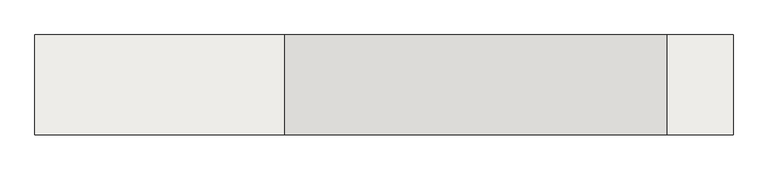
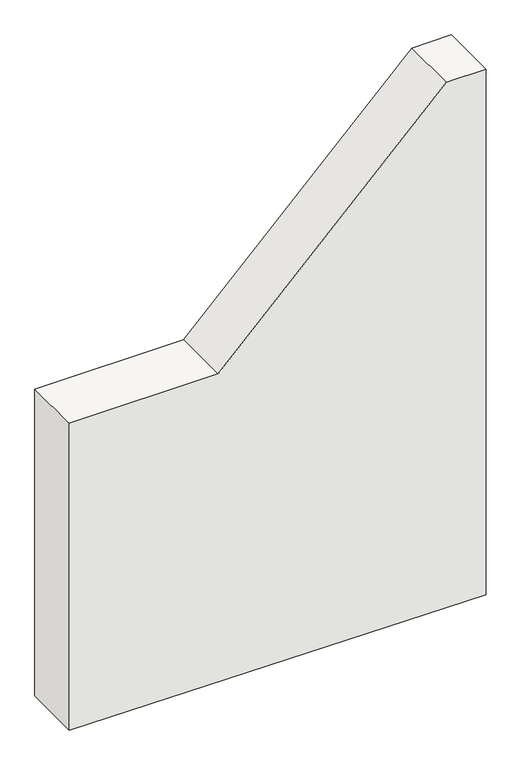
"""IFC4 building model written with IfcOpenShell, lengths in millimetres: slab geometry, Mur Amont : Mur Amont."""

import ifcopenshell
import ifcopenshell.guid

model = None  # the IFC model being written
_history = None  # IfcOwnerHistory: only IFC2X3 demands one
_inside = {}  # id of a spatial element -> (the spatial element, [elements in it])
_under = {}  # id of a project, library or spatial element -> (it, [spatial elements below it])
_declared = {}  # id of a project -> (the project, [libraries it declares])
_typed = {}  # id of a type object -> (the type object, [elements of that type])
_made_of = {}  # id of a material, layer set ... -> (it, [elements and type objects made of it])


def new_model(schema):
    """Start an empty IFC model of exactly this schema.

    Asked for "IFC4X3", IfcOpenShell would pick the latest addendum, in which some entities
    have other attributes; the version numbers below select the first issue.
    IFC2X3 requires an IfcOwnerHistory on every rooted entity: one is made here for all.
    """
    global model, _history
    if schema == "IFC4X3":
        model = ifcopenshell.file(schema_version=(4, 3, 0, 0))
    else:
        model = ifcopenshell.file(schema=schema)
    _inside.clear()
    _under.clear()
    _declared.clear()
    _typed.clear()
    _made_of.clear()
    _history = None
    if model.schema == "IFC2X3":
        org = make("IfcOrganization", Name="unknown")
        user = make(
            "IfcPersonAndOrganization",
            ThePerson=make("IfcPerson", FamilyName="unknown"),
            TheOrganization=org,
        )
        app = make(
            "IfcApplication",
            ApplicationDeveloper=org,
            Version="unknown",
            ApplicationFullName="unknown",
            ApplicationIdentifier="unknown",
        )
        _history = make(
            "IfcOwnerHistory",
            OwningUser=user,
            OwningApplication=app,
            ChangeAction="ADDED",
            CreationDate=0,
        )
    return model


def make(cls, **values):
    """One entity of the class cls with the attributes given. An attribute that is None is left unset."""
    return model.create_entity(
        cls, **{name: value for name, value in values.items() if value is not None}
    )


def rooted(cls, **values):
    """An entity with a GlobalId (a new one), such as an element, a storey or a relation."""
    return make(cls, GlobalId=ifcopenshell.guid.new(), OwnerHistory=_history, **values)


def si_unit(unit_type, name, prefix=None):
    """IfcSIUnit, for example si_unit("LENGTHUNIT", "METRE", prefix="MILLI")."""
    return make("IfcSIUnit", UnitType=unit_type, Prefix=prefix, Name=name)


def assignment(units):
    """IfcUnitAssignment: the units of a project."""
    return None if units is None else make("IfcUnitAssignment", Units=units)


def point(xyz):
    """IfcCartesianPoint."""
    return None if xyz is None else make("IfcCartesianPoint", Coordinates=xyz)


def direction(xyz):
    """IfcDirection."""
    return None if xyz is None else make("IfcDirection", DirectionRatios=xyz)


def frame(location, z_axis=None, x_axis=None):
    """IfcAxis2Placement3D, a coordinate frame: its origin and axes. An axis left out is left unset."""
    return make(
        "IfcAxis2Placement3D",
        Location=point(location),
        Axis=direction(z_axis),
        RefDirection=direction(x_axis),
    )


def origin():
    """The frame at (0, 0, 0) with its axes left unset."""
    return frame((0.0, 0.0, 0.0))


def place(relative_to, where):
    """IfcLocalPlacement: puts the frame where relative to a parent placement (None: the world)."""
    return make(
        "IfcLocalPlacement", PlacementRelTo=relative_to, RelativePlacement=where
    )


def context(
    kind, dimensions, precision=None, world=None, true_north=None, identifier=None
):
    """IfcGeometricRepresentationContext, for example the 3D "Model" context."""
    return make(
        "IfcGeometricRepresentationContext",
        ContextIdentifier=identifier,
        ContextType=kind,
        CoordinateSpaceDimension=dimensions,
        Precision=precision,
        WorldCoordinateSystem=world,
        TrueNorth=true_north,
    )


def project(units=None, contexts=None):
    """IfcProject with its units and contexts."""
    return rooted(
        "IfcProject",
        Name="project",
        RepresentationContexts=contexts,
        UnitsInContext=assignment(units),
    )


def spatial(cls, under=None, at=None, **own):
    """A site, building, storey or space (cls), placed at a placement, below another one or the project."""
    s = rooted(cls, ObjectPlacement=at, **own)
    if under is not None:
        _under.setdefault(under.id(), (under, []))[1].append(s)
    return s


def polyline(points):
    """IfcPolyline through the points."""
    return make("IfcPolyline", Points=[point(p) for p in points])


def outline(outer, holes=None, kind="AREA"):
    """IfcArbitraryClosedProfileDef: a profile drawn as a closed curve; with holes, ...WithVoids."""
    if holes is None:
        return make("IfcArbitraryClosedProfileDef", ProfileType=kind, OuterCurve=outer)
    return make(
        "IfcArbitraryProfileDefWithVoids",
        ProfileType=kind,
        OuterCurve=outer,
        InnerCurves=holes,
    )


def extrude(swept, where, along, depth):
    """IfcExtrudedAreaSolid: the profile swept, set in the frame where, extruded along a direction by depth."""
    return make(
        "IfcExtrudedAreaSolid",
        SweptArea=swept,
        Position=where,
        ExtrudedDirection=direction(along),
        Depth=depth,
    )


def shape(context_of_items, identifier, shape_type, items):
    """IfcShapeRepresentation: the items that make up one representation, for example the "Body"."""
    return make(
        "IfcShapeRepresentation",
        ContextOfItems=context_of_items,
        RepresentationIdentifier=identifier,
        RepresentationType=shape_type,
        Items=items,
    )


def source(mapping_origin, context_of_items, identifier, shape_type, items):
    """IfcRepresentationMap: a shape defined once, which mapped items show again and again."""
    return make(
        "IfcRepresentationMap",
        MappingOrigin=mapping_origin,
        MappedRepresentation=shape(context_of_items, identifier, shape_type, items),
    )


def transform(
    local_origin,
    x_axis=None,
    y_axis=None,
    z_axis=None,
    scale=None,
    scale2=None,
    scale3=None,
    uniform=True,
):
    """IfcCartesianTransformationOperator3D, or its non-uniform kind. x_axis, y_axis, z_axis: its Axis1, 2, 3."""
    if uniform:
        return make(
            "IfcCartesianTransformationOperator3D",
            Axis1=direction(x_axis),
            Axis2=direction(y_axis),
            LocalOrigin=point(local_origin),
            Scale=scale,
            Axis3=direction(z_axis),
        )
    return make(
        "IfcCartesianTransformationOperator3DnonUniform",
        Axis1=direction(x_axis),
        Axis2=direction(y_axis),
        LocalOrigin=point(local_origin),
        Scale=scale,
        Axis3=direction(z_axis),
        Scale2=scale2,
        Scale3=scale3,
    )


def mapped(mapping_source, mapping_target):
    """IfcMappedItem: shows the shape of a source again, moved by a transform."""
    return make(
        "IfcMappedItem", MappingSource=mapping_source, MappingTarget=mapping_target
    )


def made_of(thing, what):
    """Note that an element or type object is made of a material, layer set ...; save() writes the relation."""
    if what is not None:
        _made_of.setdefault(what.id(), (what, []))[1].append(thing)
    return thing


def element(
    cls,
    number,
    at=None,
    inside=None,
    cuts=None,
    type_object=None,
    material=None,
    context=None,
    identifier="Body",
    shape_type=None,
    held_by="IfcProductDefinitionShape",
    body=None,
    shapes=None,
    **own,
):
    """One element of the class cls, such as IfcWall. Its Tag is "e" and its number.

    at: its placement. inside: the storey or other place that contains it. cuts: it is an
    opening in that element (IfcRelVoidsElement). A single representation is given by context,
    identifier, shape_type and body (its items); several are given by shapes. held_by: the class
    of the entity that holds the representations. save() writes the other relations.
    """
    e = rooted(cls, Tag="e%d" % number, ObjectPlacement=at, **own)
    if body is not None:
        shapes = [shape(context, identifier, shape_type, body)]
    if shapes is not None:
        e.Representation = make(held_by, Representations=shapes)
    if inside is not None:
        _inside.setdefault(inside.id(), (inside, []))[1].append(e)
    if cuts is not None:
        rooted(
            "IfcRelVoidsElement", RelatingBuildingElement=cuts, RelatedOpeningElement=e
        )
    if type_object is not None:
        _typed.setdefault(type_object.id(), (type_object, []))[1].append(e)
    return made_of(e, material)


def aggregate(whole, parts):
    """IfcRelAggregates: a whole, such as a stair, and the parts it consists of."""
    return rooted("IfcRelAggregates", RelatingObject=whole, RelatedObjects=parts)


def save(model, path):
    """Write the relations noted so far, then the file.

    IfcRelAggregates (storeys below a building ...), IfcRelContainedInSpatialStructure (elements
    in a storey), IfcRelDefinesByType, IfcRelAssociatesMaterial and IfcRelDeclares: one each for
    every whole, place, type object, material and project.
    """
    for whole, parts in _under.values():
        aggregate(whole, parts)
    for where, things in _inside.values():
        rooted(
            "IfcRelContainedInSpatialStructure",
            RelatedElements=things,
            RelatingStructure=where,
        )
    for kind, things in _typed.values():
        rooted("IfcRelDefinesByType", RelatedObjects=things, RelatingType=kind)
    for what, things in _made_of.values():
        rooted("IfcRelAssociatesMaterial", RelatedObjects=things, RelatingMaterial=what)
    for by, libraries in _declared.values():
        rooted("IfcRelDeclares", RelatingContext=by, RelatedDefinitions=libraries)
    model.write(path)


def slab_a0106eee(model_context):
    return source(origin(), model_context, "Body", "SweptSolid", [
        extrude(outline(polyline([(156758.0, -18720.0), (156758.0, -18920.0), (155608.0, -20070.0), (155608.0, -20820.0), (153974.3792801, -20820.0), (153958.1545215, -18720.0), (156758.0, -18720.0)])), frame((0.0, -1800.0, 0.0), z_axis=(0.0, 1.0, 0.0), x_axis=(0.0, 0.0, 1.0)), (0.0, 0.0, 1.0), 300.0),
    ])


if __name__ == "__main__":
    model = new_model("IFC4")
    model_context = context("Model", 3, world=origin())
    ifc_project = project(units=[si_unit("LENGTHUNIT", "METRE", prefix="MILLI")], contexts=[model_context])
    site = spatial("IfcSite", under=ifc_project)
    building = spatial("IfcBuilding", under=site)
    placement = place(None, origin())
    slab_shape = slab_a0106eee(model_context)
    element("IfcSlab", 1, ObjectType="Mur Amont : Mur Amont", at=placement, inside=building, context=model_context, shape_type="MappedRepresentation", body=[
        mapped(slab_shape, transform((0.0, 0.0, 0.0), x_axis=(1.0, 0.0, 0.0), y_axis=(0.0, 1.0, 0.0), z_axis=(0.0, 0.0, 1.0))),
    ])
    save(model, "model.ifc")
